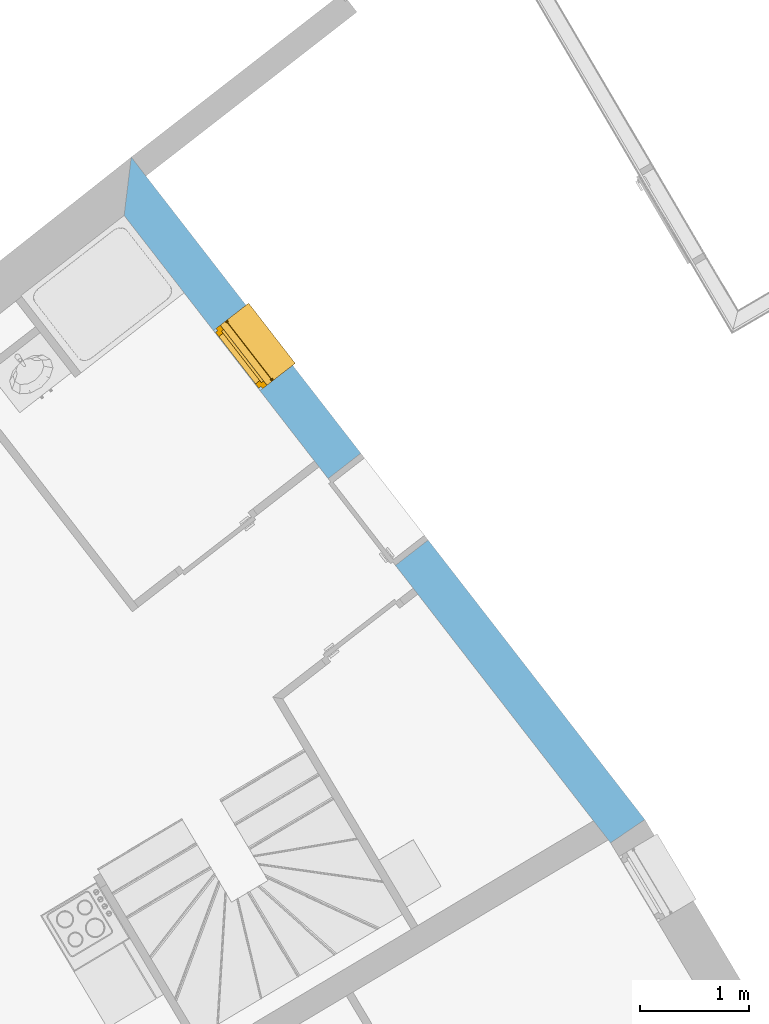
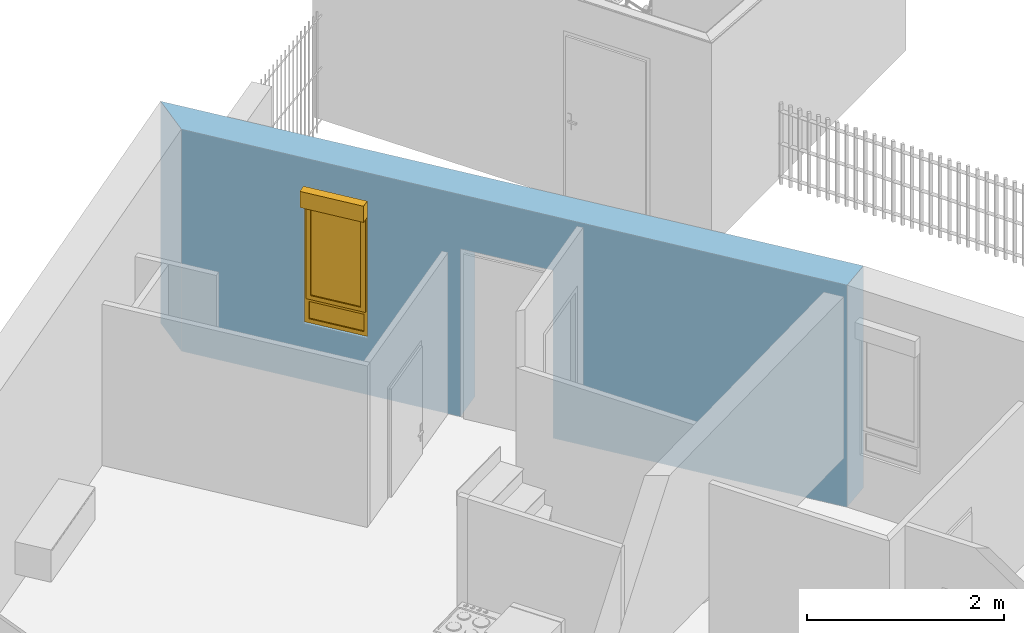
# One storey, part 45 of 195: 1 window, 2 openings, plus 1 element that does not belong to this part.
"""IFC2X3 building model written with IfcOpenShell, lengths in metres."""

from ifc_helpers import new_model, entity, si_unit, converted_unit, derived_unit, money_unit, direction, frame, origin_with_axes, origin_2d_with_axis, place, context, subcontext, project, spatial, polyline, rectangle, outline, extrude, open_shell, faceted_brep, surface_model, source, transform, mapped, material, layer, layer_set, layer_usage, type_object, element, fill, save


model = new_model("IFC2X3")

# Units and contexts
model_context = context("Model", 3, precision=1e-05, world=origin_with_axes(), true_north=direction((0.0, 1.0)))
body_context = subcontext(model_context, "Body", "Model", "MODEL_VIEW")
ifc_project = project(units=[si_unit("LENGTHUNIT", "METRE"), si_unit("AREAUNIT", "SQUARE_METRE"), si_unit("VOLUMEUNIT", "CUBIC_METRE"), converted_unit("PLANEANGLEUNIT", "DEGREE", entity("IfcPlaneAngleMeasure", 0.0174532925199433), si_unit("PLANEANGLEUNIT", "RADIAN"), dimensions=[0, 0, 0, 0, 0, 0, 0]), money_unit("CHF"), converted_unit("TIMEUNIT", "Year", entity("IfcTimeMeasure", 31557600.0), si_unit("TIMEUNIT", "SECOND"), dimensions=[0, 0, 1, 0, 0, 0, 0]), si_unit("MASSUNIT", "GRAM", prefix="KILO"), si_unit("THERMODYNAMICTEMPERATUREUNIT", "DEGREE_CELSIUS"), si_unit("LUMINOUSINTENSITYUNIT", "LUMEN"), si_unit("ENERGYUNIT", "JOULE", prefix="MEGA"), derived_unit("THERMALCONDUCTANCEUNIT", [(si_unit("POWERUNIT", "WATT"), 1), (si_unit("LENGTHUNIT", "METRE"), -1), (si_unit("THERMODYNAMICTEMPERATUREUNIT", "KELVIN"), -1)]), derived_unit("SPECIFICHEATCAPACITYUNIT", [(si_unit("ENERGYUNIT", "JOULE"), 1), (si_unit("MASSUNIT", "GRAM", prefix="KILO"), -1), (si_unit("THERMODYNAMICTEMPERATUREUNIT", "KELVIN"), -1)]), derived_unit("MASSDENSITYUNIT", [(si_unit("MASSUNIT", "GRAM", prefix="KILO"), 1), (si_unit("VOLUMEUNIT", "CUBIC_METRE"), -1)])], contexts=[model_context])

# Site, building, storey
site_placement = place(None, origin_with_axes())
site = spatial("IfcSite", under=ifc_project, at=site_placement, Name="Site", CompositionType="ELEMENT")
building_placement = place(site_placement, origin_with_axes())
building = spatial("IfcBuilding", under=site, at=building_placement, Name="Bâtiment", CompositionType="ELEMENT")
storey_placement = place(building_placement, origin_with_axes())
storey = spatial("IfcBuildingStorey", under=building, at=storey_placement, Name="rdc", CompositionType="ELEMENT", Elevation=0.0)

# Wall, openings, window
ifc_material_1 = material(Name="Parpaing 312445824")
ifc_layer_1 = layer(ifc_material_1, 0.22, ventilated="UNKNOWN")
ifc_material_2 = material(Name="Isolant styromousse 301821074")
ifc_layer_2 = layer(ifc_material_2, 0.16, ventilated="UNKNOWN")
ifc_layer_set = layer_set([ifc_layer_1, ifc_layer_2], Name="isol int 22+16 0836643197")
ifc_layer_usage = layer_usage(ifc_layer_set, "AXIS2", "POSITIVE", 0.0)
wall_type = type_object("IfcWallType", Name="isol int 22+16 0836643197 380", PredefinedType="NOTDEFINED")
wall_placement = place(storey_placement, frame((9545.059673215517, -1043.279196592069, 57.7), z_axis=(0.0, 0.0, 1.0), x_axis=(-0.6127569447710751, 0.7902714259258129, 0.0)))
wall = element("IfcWallStandardCase", 1, at=wall_placement, inside=storey, type_object=wall_type, material=ifc_layer_usage, Name="Mur-112", context=body_context, shape_type="SweptSolid", body=[
    extrude(outline(polyline([(0.0, 0.0), (7.703755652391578, 0.0), (7.32020761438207, 0.3799999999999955), (0.02325286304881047, 0.3799999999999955), (0.0, 0.0)])), origin_with_axes(), (0.0, 0.0, 1.0), 2.75),
])
opening_1_placement = place(wall_placement, frame((5.632078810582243, 0.0, 0.7000000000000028), z_axis=(0.0, 0.0, 1.0), x_axis=(1.0, 0.0, 0.0)))
opening_1 = element("IfcOpeningElement", 2, at=opening_1_placement, cuts=wall, Name="Fen-050", context=body_context, shape_type="Brep", body=[
    faceted_brep([(0.3499999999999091, 0.220000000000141, 1.5), (-0.3500000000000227, 0.220000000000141, 1.5), (-0.3500000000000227, -3.731499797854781, 1.5), (0.3500000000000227, -3.731499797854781, 1.5), (0.3499999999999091, 0.220000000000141, 1.700000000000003), (-0.3500000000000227, 0.220000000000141, 1.700000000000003), (-0.3500000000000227, 0.2999999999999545, 1.5), (-0.3500000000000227, 0.2999999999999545, 0.0), (-0.3500000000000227, -3.731499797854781, 0.0), (0.3500000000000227, -3.731499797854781, 0.0), (0.3499999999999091, 0.3000000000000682, 1.5), (0.3499999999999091, 0.3000000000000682, 0.0), (0.3499999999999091, 0.4800000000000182, 1.5), (0.3499999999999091, 0.4800000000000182, 1.700000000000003), (-0.3500000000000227, 0.4800000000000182, 1.700000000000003), (-0.3500000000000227, 0.4800000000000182, 1.5), (-0.3500000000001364, 4.11149979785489, 1.5), (-0.3500000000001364, 4.11149979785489, 0.0), (0.3500000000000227, 4.111499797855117, 0.0), (0.3500000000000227, 4.111499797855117, 1.5)], [[[0, 1, 2, 3]], [[1, 0, 4, 5]], [[1, 6, 7, 8, 2]], [[2, 8, 9, 3]], [[10, 0, 3, 9, 11]], [[0, 10, 12, 13, 4]], [[4, 13, 14, 5]], [[6, 1, 5, 14, 15]], [[6, 15, 16, 17, 7]], [[7, 11, 9, 8]], [[12, 10, 11, 18, 19]], [[12, 15, 14, 13]], [[15, 12, 19, 16]], [[19, 18, 17, 16]], [[11, 7, 17, 18]]]),
])
opening_2_placement = place(wall_placement, frame((3.75502269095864, 0.0, 0.0), z_axis=(0.0, 0.0, 1.0), x_axis=(1.0, 0.0, 0.0)))
element("IfcOpeningElement", 3, at=opening_2_placement, cuts=wall, Name="Por-300", context=body_context, shape_type="SweptSolid", body=[
    extrude(rectangle(XDim=1.01000001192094, YDim=2.079999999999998, at=origin_2d_with_axis()), frame((5.960487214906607e-09, -0.3799999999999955, 1.039999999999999), z_axis=(0.0, 1.0, 0.0), x_axis=(1.0, 0.0, 0.0)), (0.0, 0.0, 1.0), 0.76),
])
window_style = type_object("IfcWindowStyle", Name="Fenêtre variable 27", ConstructionType="NOTDEFINED", OperationType="DOUBLE_PANEL_HORIZONTAL", ParameterTakesPrecedence=False, Sizeable=False)
shared_shape = source(origin_with_axes(), body_context, "Body", "SurfaceModel", [
    surface_model("IfcShellBasedSurfaceModel", [(-0.3499999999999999, -0.05099999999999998, 0.05), (-0.3499999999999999, -0.05099999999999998, 0.04), (0.3499999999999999, -0.05100000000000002, 0.04000000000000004), (0.3499999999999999, -0.05100000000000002, 0.05000000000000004), (-0.3499999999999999, -0.3799999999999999, 0.02899999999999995), (0.3499999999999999, -0.3799999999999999, 0.02899999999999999), (-0.3499999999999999, -0.3799999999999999, 0.008999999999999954), (0.3499999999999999, -0.3799999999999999, 0.008999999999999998), (-0.3499999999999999, -0.3699999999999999, 0.01899999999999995), (0.3499999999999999, -0.3699999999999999, 0.019)], [open_shell([[[0, 1, 2, 3]], [[1, 4, 5, 2]], [[4, 6, 7, 5]], [[6, 8, 9, 7]]])]),
    faceted_brep([(-0.3499999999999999, -0.1299999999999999, 1.7), (-0.3469999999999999, -0.1299999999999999, 1.7), (-0.3469999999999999, 0.13, 1.7), (-0.3499999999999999, 0.13, 1.7), (-0.3499999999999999, -0.1299999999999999, 1.5), (-0.3469999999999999, -0.1299999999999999, 1.5), (-0.3469999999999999, 0.13, 1.5), (-0.3499999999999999, 0.13, 1.5)], [[[0, 1, 2, 3]], [[4, 5, 1, 0]], [[1, 5, 6, 2]], [[3, 2, 6, 7]], [[0, 3, 7, 4]], [[7, 6, 5, 4]]]),
    faceted_brep([(0.3469999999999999, -0.1299999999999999, 1.7), (0.3499999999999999, -0.1299999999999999, 1.7), (0.3499999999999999, 0.13, 1.7), (0.3469999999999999, 0.13, 1.7), (0.3469999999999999, -0.1299999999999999, 1.5), (0.3499999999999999, -0.1299999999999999, 1.5), (0.3499999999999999, 0.13, 1.5), (0.3469999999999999, 0.13, 1.5)], [[[0, 1, 2, 3]], [[4, 5, 1, 0]], [[1, 5, 6, 2]], [[3, 2, 6, 7]], [[0, 3, 7, 4]], [[7, 6, 5, 4]]]),
    faceted_brep([(-0.3469999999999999, -0.1299999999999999, 1.5), (0.3469999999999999, -0.1299999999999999, 1.5), (0.3469999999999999, -0.1299999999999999, 1.7), (-0.3469999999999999, -0.1299999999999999, 1.7), (-0.3469999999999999, -0.1269999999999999, 1.5), (0.3469999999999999, -0.127, 1.5), (0.3469999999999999, -0.127, 1.697), (0.3469999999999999, 0.127, 1.697), (0.3469999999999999, 0.127, 1.503), (0.3469999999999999, -0.108, 1.503), (0.3469999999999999, -0.108, 1.5), (0.3469999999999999, 0.13, 1.5), (0.3469999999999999, 0.13, 1.7), (-0.3469999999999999, 0.13, 1.7), (-0.3469999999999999, 0.13, 1.5), (-0.3469999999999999, -0.108, 1.5), (-0.3469999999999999, -0.108, 1.503), (-0.3469999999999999, 0.127, 1.503), (-0.3469999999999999, 0.127, 1.697), (-0.3469999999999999, -0.1269999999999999, 1.697)], [[[0, 1, 2, 3]], [[4, 5, 1, 0]], [[1, 5, 6, 7, 8, 9, 10, 11, 12, 2]], [[3, 2, 12, 13]], [[0, 3, 13, 14, 15, 16, 17, 18, 19, 4]], [[19, 6, 5, 4]], [[18, 7, 6, 19]], [[17, 8, 7, 18]], [[16, 9, 8, 17]], [[15, 10, 9, 16]], [[14, 11, 10, 15]], [[13, 12, 11, 14]]]),
    faceted_brep([(-0.3439999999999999, -0.08075423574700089, 1.585760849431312), (-0.3439999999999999, -0.08199999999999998, 1.6), (-0.3439999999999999, -0.08075423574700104, 1.614239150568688), (-0.3439999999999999, -0.07705479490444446, 1.628045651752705), (-0.3439999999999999, -0.07101408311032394, 1.641), (-0.3439999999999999, -0.06281564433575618, 1.652708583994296), (-0.3439999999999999, -0.05270858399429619, 1.662815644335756), (-0.3439999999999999, -0.04099999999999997, 1.671014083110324), (-0.3439999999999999, -0.02804565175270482, 1.677054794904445), (-0.3439999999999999, -0.01423915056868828, 1.680754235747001), (-0.3439999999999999, 0.0, 1.682), (-0.3439999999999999, 0.01423915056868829, 1.680754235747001), (-0.3439999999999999, 0.02804565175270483, 1.677054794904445), (-0.3439999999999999, 0.04099999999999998, 1.671014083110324), (-0.3439999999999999, 0.0527085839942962, 1.662815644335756), (-0.3439999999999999, 0.06281564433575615, 1.652708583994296), (-0.3439999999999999, 0.07101408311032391, 1.641), (-0.3439999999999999, 0.07705479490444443, 1.628045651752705), (-0.3439999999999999, 0.080754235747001, 1.614239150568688), (-0.3439999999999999, 0.08199999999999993, 1.6), (-0.3439999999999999, 0.08075423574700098, 1.585760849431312), (-0.3439999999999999, 0.07705479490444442, 1.571954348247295), (-0.3439999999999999, 0.0710140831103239, 1.559), (-0.3439999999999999, 0.06281564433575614, 1.547291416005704), (-0.3439999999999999, 0.05270858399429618, 1.537184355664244), (-0.3439999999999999, 0.04099999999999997, 1.528985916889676), (-0.3439999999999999, 0.02804565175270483, 1.522945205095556), (-0.3439999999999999, 0.0142391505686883, 1.519245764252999), (-0.3439999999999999, 0.0, 1.518), (-0.3439999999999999, -0.01423915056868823, 1.519245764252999), (-0.3439999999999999, -0.02804565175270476, 1.522945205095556), (-0.3439999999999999, -0.04099999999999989, 1.528985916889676), (-0.3439999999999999, -0.05270858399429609, 1.537184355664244), (-0.3439999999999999, -0.06281564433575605, 1.547291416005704), (-0.3439999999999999, -0.0710140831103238, 1.559), (-0.3439999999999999, -0.07705479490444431, 1.571954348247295), (0.3439999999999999, -0.08075423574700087, 1.585760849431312), (0.3439999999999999, -0.08199999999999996, 1.6), (0.3439999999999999, -0.08075423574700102, 1.614239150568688), (0.3439999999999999, -0.07705479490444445, 1.628045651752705), (0.3439999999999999, -0.07101408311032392, 1.641), (0.3439999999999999, -0.06281564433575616, 1.652708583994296), (0.3439999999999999, -0.05270858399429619, 1.662815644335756), (0.3439999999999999, -0.04099999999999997, 1.671014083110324), (0.3439999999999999, -0.02804565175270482, 1.677054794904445), (0.3439999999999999, -0.01423915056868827, 1.680754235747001), (0.3439999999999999, 0.0, 1.682), (0.3439999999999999, 0.01423915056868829, 1.680754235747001), (0.3439999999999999, 0.02804565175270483, 1.677054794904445), (0.3439999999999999, 0.04099999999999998, 1.671014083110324), (0.3439999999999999, 0.0527085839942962, 1.662815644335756), (0.3439999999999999, 0.06281564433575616, 1.652708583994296), (0.3439999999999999, 0.07101408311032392, 1.641), (0.3439999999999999, 0.07705479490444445, 1.628045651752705), (0.3439999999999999, 0.08075423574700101, 1.614239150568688), (0.3439999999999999, 0.08199999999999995, 1.6), (0.3439999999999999, 0.080754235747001, 1.585760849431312), (0.3439999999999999, 0.07705479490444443, 1.571954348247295), (0.3439999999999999, 0.07101408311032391, 1.559), (0.3439999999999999, 0.06281564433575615, 1.547291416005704), (0.3439999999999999, 0.05270858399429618, 1.537184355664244), (0.3439999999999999, 0.04099999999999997, 1.528985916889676), (0.3439999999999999, 0.02804565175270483, 1.522945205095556), (0.3439999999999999, 0.0142391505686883, 1.519245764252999), (0.3439999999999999, 0.0, 1.518), (0.3439999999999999, -0.01423915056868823, 1.519245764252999), (0.3439999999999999, -0.02804565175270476, 1.522945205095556), (0.3439999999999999, -0.04099999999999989, 1.528985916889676), (0.3439999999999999, -0.05270858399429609, 1.537184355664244), (0.3439999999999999, -0.06281564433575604, 1.547291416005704), (0.3439999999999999, -0.07101408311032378, 1.559), (0.3439999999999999, -0.0770547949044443, 1.571954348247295)], [[[0, 1, 2, 3, 4, 5, 6, 7, 8, 9, 10, 11, 12, 13, 14, 15, 16, 17, 18, 19, 20, 21, 22, 23, 24, 25, 26, 27, 28, 29, 30, 31, 32, 33, 34, 35]], [[0, 36, 37, 1]], [[1, 37, 38, 2]], [[2, 38, 39, 3]], [[3, 39, 40, 4]], [[4, 40, 41, 5]], [[5, 41, 42, 6]], [[6, 42, 43, 7]], [[7, 43, 44, 8]], [[8, 44, 45, 9]], [[9, 45, 46, 10]], [[10, 46, 47, 11]], [[11, 47, 48, 12]], [[12, 48, 49, 13]], [[13, 49, 50, 14]], [[14, 50, 51, 15]], [[15, 51, 52, 16]], [[16, 52, 53, 17]], [[17, 53, 54, 18]], [[18, 54, 55, 19]], [[19, 55, 56, 20]], [[20, 56, 57, 21]], [[21, 57, 58, 22]], [[22, 58, 59, 23]], [[23, 59, 60, 24]], [[24, 60, 61, 25]], [[25, 61, 62, 26]], [[26, 62, 63, 27]], [[27, 63, 64, 28]], [[28, 64, 65, 29]], [[29, 65, 66, 30]], [[30, 66, 67, 31]], [[31, 67, 68, 32]], [[32, 68, 69, 33]], [[33, 69, 70, 34]], [[34, 70, 71, 35]], [[35, 71, 36, 0]], [[36, 71, 70, 69, 68, 67, 66, 65, 64, 63, 62, 61, 60, 59, 58, 57, 56, 55, 54, 53, 52, 51, 50, 49, 48, 47, 46, 45, 44, 43, 42, 41, 40, 39, 38, 37]]]),
    faceted_brep([(0.3499999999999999, -0.105, 0.03), (0.3499999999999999, -0.1049999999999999, 1.5), (0.3499999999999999, -0.1299999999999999, 1.5), (0.3499999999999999, -0.13, 0.03), (0.3249999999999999, -0.105, 0.03), (0.3249999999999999, -0.1049999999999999, 1.5), (0.3249999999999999, -0.1079999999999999, 1.5), (0.3469999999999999, -0.1079999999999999, 1.5), (0.3469999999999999, -0.1269999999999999, 1.5), (0.3249999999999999, -0.1269999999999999, 1.5), (0.3249999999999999, -0.1299999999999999, 1.5), (0.3249999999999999, -0.13, 0.03), (0.3249999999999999, -0.127, 0.03), (0.3469999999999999, -0.127, 0.03), (0.3469999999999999, -0.108, 0.03), (0.3249999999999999, -0.108, 0.03)], [[[0, 1, 2, 3]], [[4, 5, 1, 0]], [[1, 5, 6, 7, 8, 9, 10, 2]], [[3, 2, 10, 11]], [[0, 3, 11, 12, 13, 14, 15, 4]], [[15, 6, 5, 4]], [[14, 7, 6, 15]], [[13, 8, 7, 14]], [[12, 9, 8, 13]], [[11, 10, 9, 12]]]),
    faceted_brep([(-0.3499999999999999, -0.105, 0.03), (-0.3499999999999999, -0.1299999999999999, 0.03), (-0.3499999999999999, -0.1299999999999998, 1.5), (-0.3499999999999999, -0.1049999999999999, 1.5), (-0.3249999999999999, -0.105, 0.03), (-0.3249999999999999, -0.108, 0.03), (-0.3469999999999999, -0.108, 0.03), (-0.3469999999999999, -0.1269999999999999, 0.03), (-0.3249999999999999, -0.1269999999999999, 0.03), (-0.3249999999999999, -0.1299999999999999, 0.03), (-0.3249999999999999, -0.1299999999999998, 1.5), (-0.3249999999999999, -0.1269999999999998, 1.5), (-0.3469999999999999, -0.1269999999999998, 1.5), (-0.3469999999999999, -0.1079999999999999, 1.5), (-0.3249999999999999, -0.1079999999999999, 1.5), (-0.3249999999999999, -0.1049999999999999, 1.5)], [[[0, 1, 2, 3]], [[0, 4, 5, 6, 7, 8, 9, 1]], [[1, 9, 10, 2]], [[3, 2, 10, 11, 12, 13, 14, 15]], [[4, 0, 3, 15]], [[5, 4, 15, 14]], [[6, 5, 14, 13]], [[7, 6, 13, 12]], [[8, 7, 12, 11]], [[9, 8, 11, 10]]]),
    surface_model("IfcShellBasedSurfaceModel", [(-0.3469999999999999, -0.115, 1.6), (0.3469999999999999, -0.1149999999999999, 1.6), (0.3469999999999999, -0.12, 1.6), (-0.3469999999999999, -0.12, 1.6), (-0.3469999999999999, -0.115, 1.6), (-0.3469999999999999, -0.12, 1.6), (0.3469999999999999, -0.12, 1.6), (0.3469999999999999, -0.115, 1.6)], [open_shell([[[0, 1, 2, 3]], [[4, 5, 6, 7]]])]),
    faceted_brep([(-0.3469999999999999, -0.115, 1.6), (0.3469999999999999, -0.1149999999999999, 1.6), (0.3469999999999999, -0.1166666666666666, 1.583333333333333), (-0.3469999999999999, -0.1166666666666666, 1.583333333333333), (-0.3469999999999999, -0.12, 1.6), (0.3469999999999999, -0.12, 1.6), (0.3469999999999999, -0.1216666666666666, 1.583333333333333), (0.3469999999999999, -0.1216666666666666, 1.566666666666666), (0.3469999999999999, -0.12, 1.55), (0.3469999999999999, -0.1149999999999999, 1.55), (0.3469999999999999, -0.1166666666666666, 1.566666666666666), (-0.3469999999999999, -0.1166666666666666, 1.566666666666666), (-0.3469999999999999, -0.115, 1.55), (-0.3469999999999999, -0.12, 1.55), (-0.3469999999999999, -0.1216666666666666, 1.566666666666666), (-0.3469999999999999, -0.1216666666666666, 1.583333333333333)], [[[0, 1, 2, 3]], [[4, 5, 1, 0]], [[1, 5, 6, 7, 8, 9, 10, 2]], [[3, 2, 10, 11]], [[0, 3, 11, 12, 13, 14, 15, 4]], [[15, 6, 5, 4]], [[14, 7, 6, 15]], [[13, 8, 7, 14]], [[12, 9, 8, 13]], [[11, 10, 9, 12]]]),
    faceted_brep([(-0.3469999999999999, -0.115, 1.55), (0.3469999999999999, -0.1149999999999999, 1.55), (0.3469999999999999, -0.1166666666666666, 1.533333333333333), (-0.3469999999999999, -0.1166666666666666, 1.533333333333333), (-0.3469999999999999, -0.12, 1.55), (0.3469999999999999, -0.12, 1.55), (0.3469999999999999, -0.1216666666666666, 1.533333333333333), (0.3469999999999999, -0.1216666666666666, 1.516666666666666), (0.3469999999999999, -0.12, 1.5), (0.3469999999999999, -0.1149999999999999, 1.5), (0.3469999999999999, -0.1166666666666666, 1.516666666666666), (-0.3469999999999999, -0.1166666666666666, 1.516666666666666), (-0.3469999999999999, -0.115, 1.5), (-0.3469999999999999, -0.12, 1.5), (-0.3469999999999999, -0.1216666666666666, 1.516666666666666), (-0.3469999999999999, -0.1216666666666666, 1.533333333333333)], [[[0, 1, 2, 3]], [[4, 5, 1, 0]], [[1, 5, 6, 7, 8, 9, 10, 2]], [[3, 2, 10, 11]], [[0, 3, 11, 12, 13, 14, 15, 4]], [[15, 6, 5, 4]], [[14, 7, 6, 15]], [[13, 8, 7, 14]], [[12, 9, 8, 13]], [[11, 10, 9, 12]]]),
    faceted_brep([(-0.325, 0.0, 1.45), (-0.3499999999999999, 0.0, 1.45), (-0.3499999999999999, -0.05000000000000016, 1.45), (-0.2999999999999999, -0.05000000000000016, 1.45), (-0.2999999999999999, -0.02500000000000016, 1.45), (-0.325, -0.02500000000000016, 1.45), (-0.325, 0.0, 0.3099999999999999), (-0.2999999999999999, 0.0, 0.3099999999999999), (-0.2999999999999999, 0.0, 0.265), (-0.2999999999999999, 0.0, 0.05000000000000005), (-0.3499999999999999, 0.0, 0.05000000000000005), (-0.3499999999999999, -0.04999999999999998, 0.05000000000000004), (-0.2999999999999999, -0.05000000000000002, 0.335), (-0.2999999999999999, -0.04999999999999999, 0.05000000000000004), (-0.2999999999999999, -0.05000000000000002, 0.265), (-0.2999999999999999, -0.02500000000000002, 0.335), (-0.2999999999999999, -0.02500000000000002, 0.3099999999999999), (-0.325, -0.02500000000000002, 0.3099999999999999)], [[[0, 1, 2, 3, 4, 5]], [[6, 7, 8, 9, 10, 1, 0]], [[1, 10, 11, 2]], [[12, 3, 2, 11, 13, 14]], [[4, 3, 12, 15]], [[15, 16, 17, 5, 4]], [[5, 17, 6, 0]], [[6, 17, 16, 7]], [[16, 15, 12, 14, 8, 7]], [[9, 8, 14, 13]], [[10, 9, 13, 11]]]),
    faceted_brep([(0.2999999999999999, -0.02500000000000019, 1.45), (0.2999999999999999, -0.05000000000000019, 1.45), (0.3499999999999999, -0.0500000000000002, 1.45), (0.3499999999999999, 0.0, 1.45), (0.325, 0.0, 1.45), (0.325, -0.02500000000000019, 1.45), (0.2999999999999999, -0.02500000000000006, 0.335), (0.2999999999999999, -0.05000000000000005, 0.335), (0.3499999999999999, -0.05000000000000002, 0.05000000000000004), (0.2999999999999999, -0.05000000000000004, 0.265), (0.2999999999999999, -0.05000000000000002, 0.05000000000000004), (0.3499999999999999, 0.0, 0.05000000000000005), (0.325, 0.0, 0.3099999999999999), (0.2999999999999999, 0.0, 0.05000000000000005), (0.2999999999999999, 0.0, 0.265), (0.2999999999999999, 0.0, 0.3099999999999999), (0.325, -0.02500000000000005, 0.3099999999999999), (0.2999999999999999, -0.02500000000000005, 0.3099999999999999)], [[[0, 1, 2, 3, 4, 5]], [[6, 7, 1, 0]], [[8, 2, 1, 7, 9, 10]], [[11, 3, 2, 8]], [[12, 4, 3, 11, 13, 14, 15]], [[12, 16, 5, 4]], [[5, 16, 17, 6, 0]], [[17, 15, 14, 9, 7, 6]], [[14, 13, 10, 9]], [[13, 11, 8, 10]], [[15, 17, 16, 12]]]),
    faceted_brep([(-0.2999999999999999, -0.02500000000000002, 0.335), (-0.2999999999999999, -0.05000000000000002, 0.335), (0.2999999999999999, -0.05000000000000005, 0.335), (0.2999999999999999, -0.02500000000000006, 0.335), (-0.2999999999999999, -0.02500000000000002, 0.3099999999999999), (-0.2999999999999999, 0.0, 0.3099999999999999), (-0.2999999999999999, 0.0, 0.265), (-0.2999999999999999, -0.05000000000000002, 0.265), (0.2999999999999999, -0.05000000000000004, 0.265), (0.2999999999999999, -0.02500000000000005, 0.3099999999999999), (0.2999999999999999, 0.0, 0.265), (0.2999999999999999, 0.0, 0.3099999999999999)], [[[0, 1, 2, 3]], [[4, 5, 6, 7, 1, 0]], [[8, 2, 1, 7]], [[9, 3, 2, 8, 10, 11]], [[9, 4, 0, 3]], [[5, 4, 9, 11]], [[11, 10, 6, 5]], [[6, 10, 8, 7]]]),
    faceted_brep([(-0.325, 0.0, 1.45), (-0.3499999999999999, 0.0, 1.45), (-0.3499999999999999, 0.0, 1.5), (0.3499999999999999, 0.0, 1.5), (0.3499999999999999, 0.0, 1.45), (0.325, 0.0, 1.45), (0.325, 0.0, 1.475), (-0.325, 0.0, 1.475), (-0.325, -0.02500000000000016, 1.45), (-0.2999999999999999, -0.02500000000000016, 1.45), (-0.2999999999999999, -0.05000000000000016, 1.45), (-0.3499999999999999, -0.05000000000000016, 1.45), (-0.3499999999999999, -0.05000000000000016, 1.5), (0.3499999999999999, -0.0500000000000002, 1.5), (0.3499999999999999, -0.0500000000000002, 1.45), (0.325, -0.02500000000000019, 1.45), (0.2999999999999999, -0.05000000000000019, 1.45), (0.2999999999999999, -0.02500000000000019, 1.45), (0.325, -0.0250000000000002, 1.475), (-0.325, -0.02500000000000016, 1.475)], [[[0, 1, 2, 3, 4, 5, 6, 7]], [[8, 9, 10, 11, 1, 0]], [[2, 1, 11, 12]], [[3, 2, 12, 13]], [[4, 3, 13, 14]], [[15, 5, 4, 14, 16, 17]], [[5, 15, 18, 6]], [[6, 18, 19, 7]], [[7, 19, 8, 0]], [[17, 9, 8, 19, 18, 15]], [[17, 16, 10, 9]], [[14, 13, 12, 11, 10, 16]]]),
    faceted_brep([(-0.2999999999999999, -0.04999999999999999, 0.05), (-0.2999999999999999, 0.0, 0.05000000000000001), (-0.3499999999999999, 0.0, 0.05000000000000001), (-0.3499999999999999, -0.04999999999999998, 0.05), (0.2999999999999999, -0.05000000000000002, 0.05), (0.2999999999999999, 0.0, 0.05000000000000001), (0.3499999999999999, 0.0, 0.05000000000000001), (0.3499999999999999, 0.0, 0.0), (-0.3499999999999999, 0.0, 0.0), (-0.3499999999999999, -0.04999999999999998, 0.0), (0.3499999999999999, -0.05000000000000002, 0.0), (0.3499999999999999, -0.05000000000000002, 0.05)], [[[0, 1, 2, 3]], [[4, 5, 1, 0]], [[1, 5, 6, 7, 8, 2]], [[3, 2, 8, 9]], [[0, 3, 9, 10, 11, 4]], [[11, 6, 5, 4]], [[10, 7, 6, 11]], [[9, 8, 7, 10]]]),
    faceted_brep([(-0.275, -0.02500000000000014, 1.425), (-0.275, 0.02499999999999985, 1.425), (-0.325, 0.02499999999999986, 1.425), (-0.325, -0.02500000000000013, 1.425), (-0.275, -0.02500000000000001, 0.3599999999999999), (-0.275, 0.02499999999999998, 0.3599999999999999), (-0.325, 0.02499999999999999, 0.3599999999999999), (-0.325, -0.025, 0.3599999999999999)], [[[0, 1, 2, 3]], [[4, 5, 1, 0]], [[1, 5, 6, 2]], [[3, 2, 6, 7]], [[0, 3, 7, 4]], [[7, 6, 5, 4]]]),
    faceted_brep([(0.275, -0.02500000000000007, 0.3599999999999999), (0.275, 0.02499999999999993, 0.3599999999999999), (0.325, 0.02499999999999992, 0.3599999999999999), (0.325, -0.02500000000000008, 0.3599999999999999), (0.275, -0.0250000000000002, 1.425), (0.275, 0.0249999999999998, 1.425), (0.325, 0.02499999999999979, 1.425), (0.325, -0.02500000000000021, 1.425)], [[[0, 1, 2, 3]], [[4, 5, 1, 0]], [[1, 5, 6, 2]], [[3, 2, 6, 7]], [[0, 3, 7, 4]], [[7, 6, 5, 4]]]),
    faceted_brep([(0.325, -0.02500000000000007, 0.3099999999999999), (0.325, 0.02499999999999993, 0.3099999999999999), (0.325, 0.02499999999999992, 0.3599999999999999), (0.325, -0.02500000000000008, 0.3599999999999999), (-0.325, -0.02499999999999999, 0.3099999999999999), (-0.325, 0.025, 0.3099999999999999), (-0.325, 0.02499999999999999, 0.3599999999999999), (-0.275, 0.02499999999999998, 0.3599999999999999), (0.275, 0.02499999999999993, 0.3599999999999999), (0.275, -0.02500000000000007, 0.3599999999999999), (-0.275, -0.02500000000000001, 0.3599999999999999), (-0.325, -0.025, 0.3599999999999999)], [[[0, 1, 2, 3]], [[4, 5, 1, 0]], [[1, 5, 6, 7, 8, 2]], [[3, 2, 8, 9]], [[0, 3, 9, 10, 11, 4]], [[11, 6, 5, 4]], [[10, 7, 6, 11]], [[9, 8, 7, 10]]]),
    faceted_brep([(-0.325, -0.02500000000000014, 1.475), (-0.325, 0.02499999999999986, 1.475), (-0.325, 0.02499999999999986, 1.425), (-0.325, -0.02500000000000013, 1.425), (0.325, -0.02500000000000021, 1.475), (0.325, 0.02499999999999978, 1.475), (0.325, 0.02499999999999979, 1.425), (0.275, 0.0249999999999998, 1.425), (-0.275, 0.02499999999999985, 1.425), (-0.275, -0.02500000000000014, 1.425), (0.275, -0.0250000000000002, 1.425), (0.325, -0.02500000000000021, 1.425)], [[[0, 1, 2, 3]], [[4, 5, 1, 0]], [[1, 5, 6, 7, 8, 2]], [[3, 2, 8, 9]], [[0, 3, 9, 10, 11, 4]], [[11, 6, 5, 4]], [[10, 7, 6, 11]], [[9, 8, 7, 10]]]),
    surface_model("IfcShellBasedSurfaceModel", [(-0.275, -0.01000000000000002, 0.3599999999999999), (0.275, -0.01000000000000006, 0.3599999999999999), (0.275, -0.01000000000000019, 1.425), (-0.275, -0.01000000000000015, 1.425)], [open_shell([[[0, 1, 2, 3]]])]),
    surface_model("IfcShellBasedSurfaceModel", [(-0.275, 0.009999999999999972, 0.3599999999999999), (-0.275, 0.009999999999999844, 1.425), (0.275, 0.009999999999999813, 1.425), (0.275, 0.009999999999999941, 0.3599999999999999)], [open_shell([[[0, 1, 2, 3]]])]),
    surface_model("IfcShellBasedSurfaceModel", [(-0.2999999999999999, -0.03499999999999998, 0.05), (0.2999999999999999, -0.03500000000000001, 0.05), (0.2999999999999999, -0.03500000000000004, 0.265), (-0.2999999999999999, -0.03500000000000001, 0.265)], [open_shell([[[0, 1, 2, 3]]])]),
    surface_model("IfcShellBasedSurfaceModel", [(-0.2999999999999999, -0.01499999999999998, 0.05), (-0.2999999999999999, -0.01500000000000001, 0.265), (0.2999999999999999, -0.01500000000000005, 0.265), (0.2999999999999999, -0.01500000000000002, 0.05)], [open_shell([[[0, 1, 2, 3]]])]),
])
window_placement = place(opening_1_placement, frame((-0.349999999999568, 0.0, 0.0), z_axis=(0.0, 0.0, 1.0), x_axis=(1.0, 0.0, 0.0)))
window = element("IfcWindow", 4, at=window_placement, inside=storey, type_object=window_style, Name="Fen-050", OverallHeight=1.5, OverallWidth=0.7, context=body_context, shape_type="MappedRepresentation", body=[
    mapped(shared_shape, transform((0.3499999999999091, 0.3500000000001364, 0.0))),
])
fill(opening_1, window)

save(model, "model.ifc")
